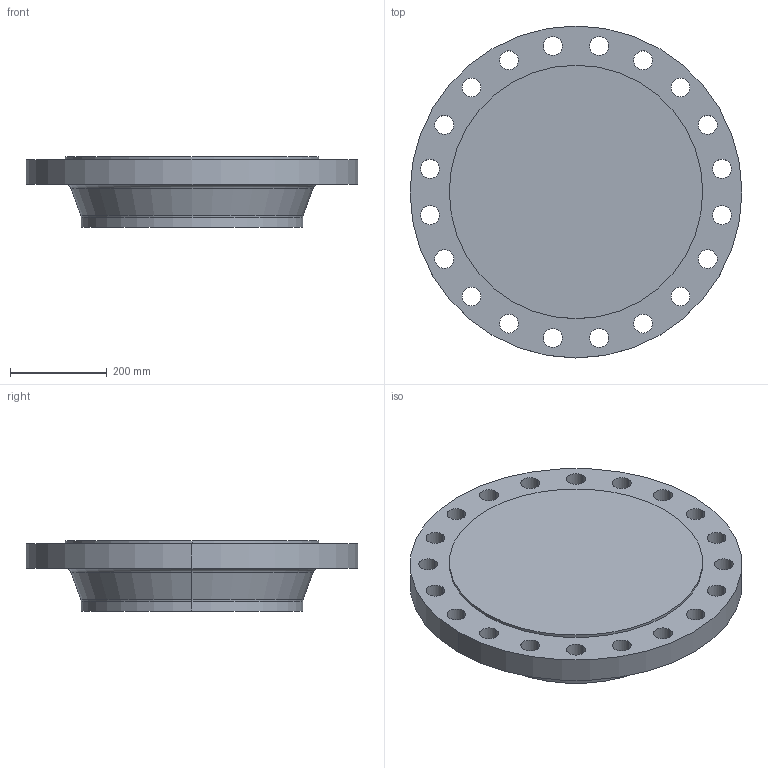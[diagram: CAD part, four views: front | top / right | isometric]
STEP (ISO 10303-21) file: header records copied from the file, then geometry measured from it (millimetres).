
FILE_DESCRIPTION (( 'STEP AP214' ), '1' );
FILE_NAME ('PN40 DN450 Type 21(ii) - Type E Face.STEP', '2018-12-29T04:50:32', ( '' ), ( '' ), 'SwSTEP 2.0', 'SolidWorks 2019', '' );
FILE_SCHEMA (( 'AUTOMOTIVE_DESIGN' ));
Length unit declared in the file: millimetre
Products named in the file (1): PN40 DN450 Type 21(ii) - Type E Face
Bounding box: 685 x 685 x 145 mm (x, y, z)
Volume: 34566134.4 mm3; surface area: 1033267.2 mm2
Topology: 1 solids, 1 shells, 56 faces, 150 edges, 98 vertices
Faces by surface type: cylinder 46, torus 4, plane 4, cone 2
Entity records: 1922 total; most frequent: DIRECTION 366, CARTESIAN_POINT 305, ORIENTED_EDGE 300, AXIS2_PLACEMENT_3D 159, EDGE_CURVE 150, CIRCLE 102, VERTEX_POINT 98, EDGE_LOOP 98
